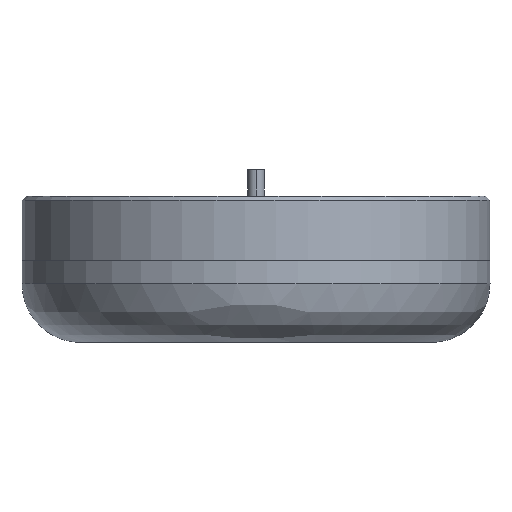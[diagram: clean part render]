
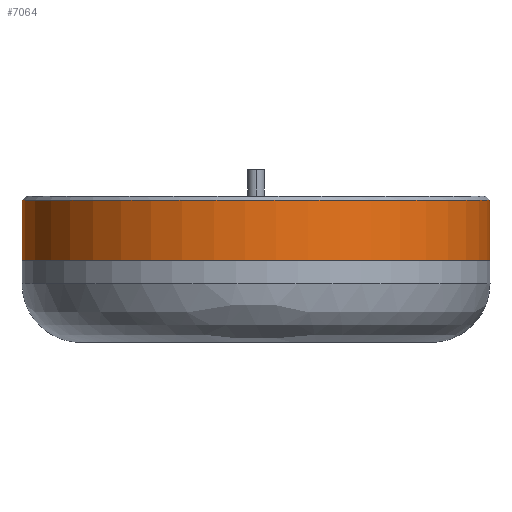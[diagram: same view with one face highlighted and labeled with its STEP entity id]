
A CAD part, front view. The second image highlights one B-rep face of the part: STEP entity #7064.
In plain terms, the highlighted free-form (B-spline) face has degree [2, 1] with [9, 2] control points.
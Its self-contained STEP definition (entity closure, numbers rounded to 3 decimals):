
#274 = CARTESIAN_POINT ( 'NONE',  ( -185., 0., 464.209 ) ) ;
#386 = CARTESIAN_POINT ( 'NONE',  ( -25., 0., 442.209 ) ) ;
#907 = EDGE_CURVE ( 'NONE', #10763, #4883, #13642, .T. ) ;
#1491 =( BOUNDED_CURVE ( )  B_SPLINE_CURVE ( 2, ( #12619, #14354, #14013, #12279, #5269 ),
 .UNSPECIFIED., .F., .F. ) 
 B_SPLINE_CURVE_WITH_KNOTS ( ( 3, 2, 3 ),
 ( 246.615, 369.922, 493.229 ),
 .UNSPECIFIED. ) 
 CURVE ( )  GEOMETRIC_REPRESENTATION_ITEM ( )  RATIONAL_B_SPLINE_CURVE ( ( 1., 0.707, 1., 0.707, 1. ) ) 
 REPRESENTATION_ITEM ( '' )  );
#2764 = CARTESIAN_POINT ( 'NONE',  ( -185., 0., 442.209 ) ) ;
#3289 = CARTESIAN_POINT ( 'NONE',  ( -25., 0., 462.709 ) ) ;
#3449 = CARTESIAN_POINT ( 'NONE',  ( -185., -80., 442.209 ) ) ;
#3520 = CARTESIAN_POINT ( 'NONE',  ( -25., 80., 442.209 ) ) ;
#4883 = VERTEX_POINT ( 'NONE', #13043 ) ;
#5269 = CARTESIAN_POINT ( 'NONE',  ( -25., 0., 462.709 ) ) ;
#5494 = CARTESIAN_POINT ( 'NONE',  ( -25., 0., 464.209 ) ) ;
#5607 = FACE_OUTER_BOUND ( 'NONE', #8678, .T. ) ;
#5725 = CARTESIAN_POINT ( 'NONE',  ( -25., -80., 464.209 ) ) ;
#6562 = CARTESIAN_POINT ( 'NONE',  ( -25., 0., 462.709 ) ) ;
#6862 = ORIENTED_EDGE ( 'NONE', *, *, #8881, .F. ) ;
#7064 = ADVANCED_FACE ( 'NONE', ( #5607 ), #18458, .T. ) ;
#7113 = CARTESIAN_POINT ( 'NONE',  ( -185., 0., 442.209 ) ) ;
#7223 = CARTESIAN_POINT ( 'NONE',  ( -185., 80., 464.209 ) ) ;
#7261 = CARTESIAN_POINT ( 'NONE',  ( -105., -80., 442.209 ) ) ;
#7333 = CARTESIAN_POINT ( 'NONE',  ( -185., 80., 442.209 ) ) ;
#7388 = B_SPLINE_CURVE_WITH_KNOTS ( 'NONE', 1,
 ( #22239, #20148 ),
 .UNSPECIFIED., .F., .F.,
 ( 2, 2 ),
 ( 0., 20.5 ),
 .UNSPECIFIED. ) ;
#7446 = CARTESIAN_POINT ( 'NONE',  ( -105., 80., 442.209 ) ) ;
#8678 = EDGE_LOOP ( 'NONE', ( #6862, #18531, #10419, #21394 ) ) ;
#8839 = CARTESIAN_POINT ( 'NONE',  ( -185., -80., 464.209 ) ) ;
#8881 = EDGE_CURVE ( 'NONE', #10763, #14738, #7388, .T. ) ;
#9392 = VERTEX_POINT ( 'NONE', #6562 ) ;
#10419 = ORIENTED_EDGE ( 'NONE', *, *, #20902, .T. ) ;
#10662 = CARTESIAN_POINT ( 'NONE',  ( -25., -80., 442.209 ) ) ;
#10763 = VERTEX_POINT ( 'NONE', #2764 ) ;
#10896 = CARTESIAN_POINT ( 'NONE',  ( -105., -80., 464.209 ) ) ;
#12091 = CARTESIAN_POINT ( 'NONE',  ( -25., -80., 442.209 ) ) ;
#12279 = CARTESIAN_POINT ( 'NONE',  ( -25., -80., 462.709 ) ) ;
#12281 = CARTESIAN_POINT ( 'NONE',  ( -105., 80., 464.209 ) ) ;
#12545 = CARTESIAN_POINT ( 'NONE',  ( -185., 0., 442.209 ) ) ;
#12619 = CARTESIAN_POINT ( 'NONE',  ( -185., 0., 462.709 ) ) ;
#12620 = CARTESIAN_POINT ( 'NONE',  ( -105., -80., 442.209 ) ) ;
#13043 = CARTESIAN_POINT ( 'NONE',  ( -25., 0., 442.209 ) ) ;
#13642 =( BOUNDED_CURVE ( )  B_SPLINE_CURVE ( 2, ( #12545, #3449, #7261, #12091, #21019 ),
 .UNSPECIFIED., .F., .F. ) 
 B_SPLINE_CURVE_WITH_KNOTS ( ( 3, 2, 3 ),
 ( 0.5, 0.75, 1. ),
 .UNSPECIFIED. ) 
 CURVE ( )  GEOMETRIC_REPRESENTATION_ITEM ( )  RATIONAL_B_SPLINE_CURVE ( ( 1., 0.707, 1., 0.707, 1. ) ) 
 REPRESENTATION_ITEM ( '' )  );
#13684 = B_SPLINE_CURVE_WITH_KNOTS ( 'NONE', 1,
 ( #17722, #3289 ),
 .UNSPECIFIED., .F., .F.,
 ( 2, 2 ),
 ( 0., 20.5 ),
 .UNSPECIFIED. ) ;
#14013 = CARTESIAN_POINT ( 'NONE',  ( -105., -80., 462.709 ) ) ;
#14015 = CARTESIAN_POINT ( 'NONE',  ( -25., 80., 464.209 ) ) ;
#14245 = CARTESIAN_POINT ( 'NONE',  ( -185., -80., 442.209 ) ) ;
#14354 = CARTESIAN_POINT ( 'NONE',  ( -185., -80., 462.709 ) ) ;
#14738 = VERTEX_POINT ( 'NONE', #15291 ) ;
#15291 = CARTESIAN_POINT ( 'NONE',  ( -185., 0., 462.709 ) ) ;
#17722 = CARTESIAN_POINT ( 'NONE',  ( -25., 0., 442.209 ) ) ;
#17729 = CARTESIAN_POINT ( 'NONE',  ( -25., 0., 442.209 ) ) ;
#18458 =( BOUNDED_SURFACE ( )  B_SPLINE_SURFACE ( 2, 1, ( 
 ( #386, #21098 ),
 ( #3520, #14015 ),
 ( #7446, #12281 ),
 ( #7333, #7223 ),
 ( #7113, #274 ),
 ( #14245, #8839 ),
 ( #12620, #10896 ),
 ( #10662, #5725 ),
 ( #17729, #5494 ) ),
 .UNSPECIFIED., .T., .F., .T. ) 
 B_SPLINE_SURFACE_WITH_KNOTS ( ( 3, 2, 2, 2, 3 ),
 ( 2, 2 ),
 ( 0., 125.664, 251.327, 376.991, 502.655 ),
 ( 0., 22. ),
 .UNSPECIFIED. ) 
 GEOMETRIC_REPRESENTATION_ITEM ( )  RATIONAL_B_SPLINE_SURFACE ( (
 ( 1., 1.),
 ( 0.707, 0.707),
 ( 1., 1.),
 ( 0.707, 0.707),
 ( 1., 1.),
 ( 0.707, 0.707),
 ( 1., 1.),
 ( 0.707, 0.707),
 ( 1., 1.) ) ) 
 REPRESENTATION_ITEM ( '' )  SURFACE ( )  );
#18531 = ORIENTED_EDGE ( 'NONE', *, *, #907, .T. ) ;
#20148 = CARTESIAN_POINT ( 'NONE',  ( -185., 0., 462.709 ) ) ;
#20902 = EDGE_CURVE ( 'NONE', #4883, #9392, #13684, .T. ) ;
#21019 = CARTESIAN_POINT ( 'NONE',  ( -25., 0., 442.209 ) ) ;
#21098 = CARTESIAN_POINT ( 'NONE',  ( -25., 0., 464.209 ) ) ;
#21369 = EDGE_CURVE ( 'NONE', #14738, #9392, #1491, .T. ) ;
#21394 = ORIENTED_EDGE ( 'NONE', *, *, #21369, .F. ) ;
#22239 = CARTESIAN_POINT ( 'NONE',  ( -185., 0., 442.209 ) ) ;
